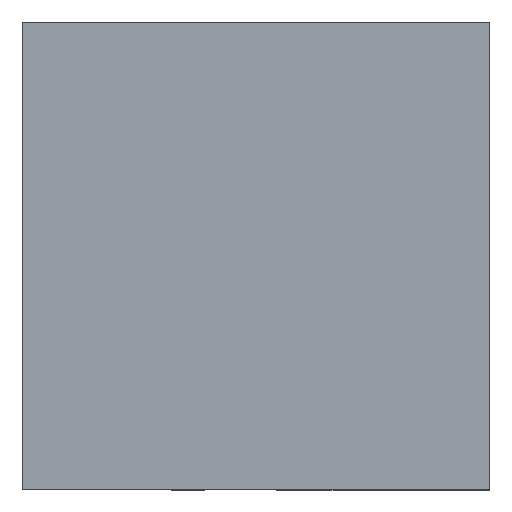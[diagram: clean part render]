
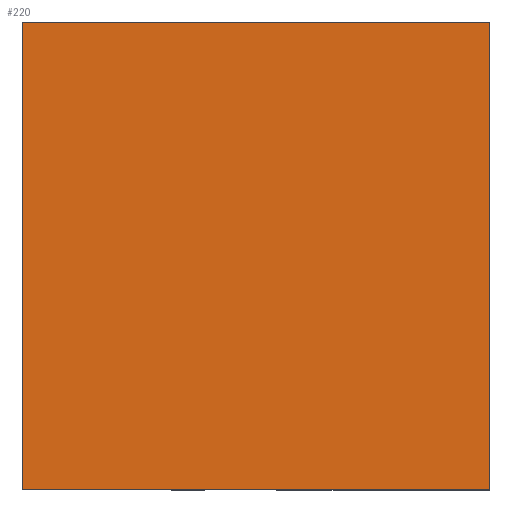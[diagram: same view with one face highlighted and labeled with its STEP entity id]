
A CAD part, top view. The second image highlights one B-rep face of the part: STEP entity #220.
In plain terms, the highlighted planar face has unit normal (0, 0, 1).
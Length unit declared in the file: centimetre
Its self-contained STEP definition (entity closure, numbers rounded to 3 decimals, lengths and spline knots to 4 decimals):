
#7 = LINE ( 'NONE', #298, #466 ) ;
#29 = VERTEX_POINT ( 'NONE', #398 ) ;
#38 = CARTESIAN_POINT ( 'NONE',  ( 0., 1000., 1000. ) ) ;
#54 = CARTESIAN_POINT ( 'NONE',  ( 0., 1000., 1000. ) ) ;
#75 = AXIS2_PLACEMENT_3D ( 'NONE', #505, #106, #384 ) ;
#77 = DIRECTION ( 'NONE',  ( 1., 0., 0. ) ) ;
#83 = CARTESIAN_POINT ( 'NONE',  ( 0., 0., 1000. ) ) ;
#100 = FACE_OUTER_BOUND ( 'NONE', #482, .T. ) ;
#105 = VERTEX_POINT ( 'NONE', #454 ) ;
#106 = DIRECTION ( 'NONE',  ( 0., 0., 1. ) ) ;
#111 = VERTEX_POINT ( 'NONE', #501 ) ;
#140 = VECTOR ( 'NONE', #377, 100. ) ;
#150 = EDGE_CURVE ( 'NONE', #29, #111, #453, .T. ) ;
#174 = PLANE ( 'NONE',  #75 ) ;
#188 = DIRECTION ( 'NONE',  ( 0., 1., 0. ) ) ;
#220 = ADVANCED_FACE ( 'NONE', ( #100 ), #174, .T. ) ;
#228 = ORIENTED_EDGE ( 'NONE', *, *, #275, .T. ) ;
#275 = EDGE_CURVE ( 'NONE', #111, #105, #463, .T. ) ;
#292 = ORIENTED_EDGE ( 'NONE', *, *, #150, .T. ) ;
#297 = EDGE_CURVE ( 'NONE', #105, #405, #7, .T. ) ;
#298 = CARTESIAN_POINT ( 'NONE',  ( 0., 1000., 1000. ) ) ;
#377 = DIRECTION ( 'NONE',  ( 0., -1., 0. ) ) ;
#382 = EDGE_CURVE ( 'NONE', #405, #29, #469, .T. ) ;
#383 = DIRECTION ( 'NONE',  ( -1., 0., 0. ) ) ;
#384 = DIRECTION ( 'NONE',  ( 1., 0., 0. ) ) ;
#398 = CARTESIAN_POINT ( 'NONE',  ( 0., 0., 1000. ) ) ;
#405 = VERTEX_POINT ( 'NONE', #38 ) ;
#426 = CARTESIAN_POINT ( 'NONE',  ( 1000., 1000., 1000. ) ) ;
#440 = VECTOR ( 'NONE', #77, 100. ) ;
#452 = ORIENTED_EDGE ( 'NONE', *, *, #297, .T. ) ;
#453 = LINE ( 'NONE', #83, #440 ) ;
#454 = CARTESIAN_POINT ( 'NONE',  ( 1000., 1000., 1000. ) ) ;
#463 = LINE ( 'NONE', #426, #538 ) ;
#466 = VECTOR ( 'NONE', #383, 100. ) ;
#469 = LINE ( 'NONE', #54, #140 ) ;
#481 = ORIENTED_EDGE ( 'NONE', *, *, #382, .T. ) ;
#482 = EDGE_LOOP ( 'NONE', ( #481, #292, #228, #452 ) ) ;
#501 = CARTESIAN_POINT ( 'NONE',  ( 1000., 0., 1000. ) ) ;
#505 = CARTESIAN_POINT ( 'NONE',  ( 0., 0., 1000. ) ) ;
#538 = VECTOR ( 'NONE', #188, 100. ) ;
